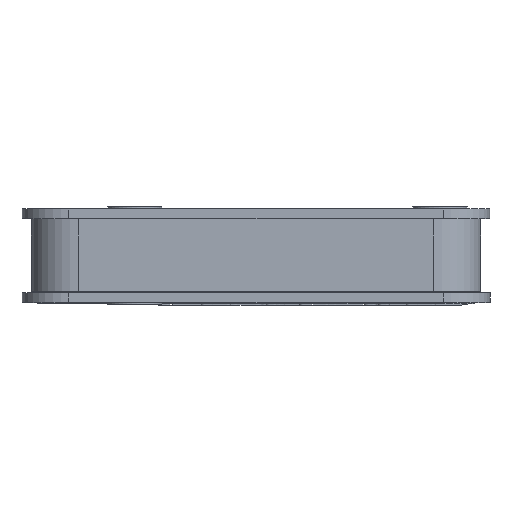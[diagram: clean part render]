
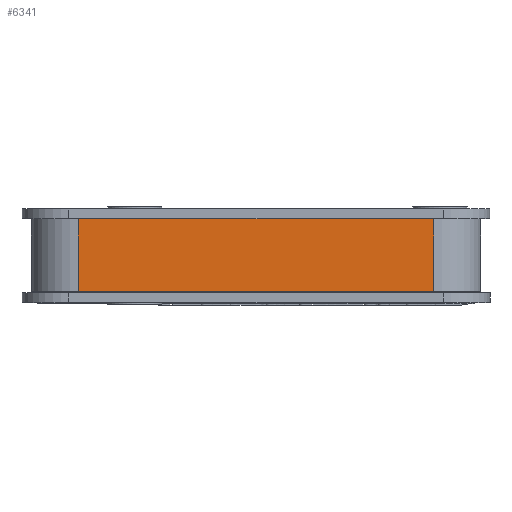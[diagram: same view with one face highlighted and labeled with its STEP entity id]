
A CAD part, front view. The second image highlights one B-rep face of the part: STEP entity #6341.
In plain terms, the highlighted planar face has unit normal (0, -1, 0).
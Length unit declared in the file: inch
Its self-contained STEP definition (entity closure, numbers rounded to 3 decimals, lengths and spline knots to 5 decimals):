
#1135 = DIRECTION ( 'NONE',  ( 1., 0., 0. ) ) ;
#1670 = AXIS2_PLACEMENT_3D ( 'NONE', #9506, #3784, #28617 ) ;
#2216 = CARTESIAN_POINT ( 'NONE',  ( 1.08769, -1.46269, 0.295 ) ) ;
#2268 = VECTOR ( 'NONE', #24551, 39.37008 ) ;
#2586 = CARTESIAN_POINT ( 'NONE',  ( 1.08769, -1.46269, -0.285 ) ) ;
#3036 = VECTOR ( 'NONE', #29281, 39.37008 ) ;
#3784 = DIRECTION ( 'NONE',  ( 0., 1., 0. ) ) ;
#4101 = FACE_OUTER_BOUND ( 'NONE', #6985, .T. ) ;
#4742 = DIRECTION ( 'NONE',  ( 1., 0., 0. ) ) ;
#5842 = EDGE_CURVE ( 'NONE', #17371, #24980, #14553, .T. ) ;
#6341 = ADVANCED_FACE ( 'NONE', ( #4101 ), #6907, .F. ) ;
#6907 = PLANE ( 'NONE',  #1670 ) ;
#6985 = EDGE_LOOP ( 'NONE', ( #23192, #17863, #19852, #32297 ) ) ;
#7151 = EDGE_CURVE ( 'NONE', #28891, #25014, #30954, .T. ) ;
#7677 = CARTESIAN_POINT ( 'NONE',  ( 1.08769, -1.46269, 0.295 ) ) ;
#8759 = VECTOR ( 'NONE', #4742, 39.37008 ) ;
#9506 = CARTESIAN_POINT ( 'NONE',  ( -1.76231, -1.46269, 0.295 ) ) ;
#9524 = EDGE_CURVE ( 'NONE', #24980, #25014, #26986, .T. ) ;
#14074 = CARTESIAN_POINT ( 'NONE',  ( -1.76231, -1.46269, -0.285 ) ) ;
#14553 = LINE ( 'NONE', #25812, #27781 ) ;
#17371 = VERTEX_POINT ( 'NONE', #23647 ) ;
#17863 = ORIENTED_EDGE ( 'NONE', *, *, #9524, .F. ) ;
#19424 = LINE ( 'NONE', #27383, #2268 ) ;
#19852 = ORIENTED_EDGE ( 'NONE', *, *, #5842, .F. ) ;
#23192 = ORIENTED_EDGE ( 'NONE', *, *, #7151, .T. ) ;
#23647 = CARTESIAN_POINT ( 'NONE',  ( -1.76231, -1.46269, 0.295 ) ) ;
#24551 = DIRECTION ( 'NONE',  ( 0., 0., -1. ) ) ;
#24980 = VERTEX_POINT ( 'NONE', #2216 ) ;
#25014 = VERTEX_POINT ( 'NONE', #2586 ) ;
#25812 = CARTESIAN_POINT ( 'NONE',  ( -1.76231, -1.46269, 0.295 ) ) ;
#26986 = LINE ( 'NONE', #7677, #3036 ) ;
#27079 = EDGE_CURVE ( 'NONE', #17371, #28891, #19424, .T. ) ;
#27383 = CARTESIAN_POINT ( 'NONE',  ( -1.76231, -1.46269, 0.295 ) ) ;
#27781 = VECTOR ( 'NONE', #1135, 39.37008 ) ;
#28607 = CARTESIAN_POINT ( 'NONE',  ( -1.76231, -1.46269, -0.285 ) ) ;
#28617 = DIRECTION ( 'NONE',  ( -1., 0., 0. ) ) ;
#28891 = VERTEX_POINT ( 'NONE', #14074 ) ;
#29281 = DIRECTION ( 'NONE',  ( 0., 0., -1. ) ) ;
#30954 = LINE ( 'NONE', #28607, #8759 ) ;
#32297 = ORIENTED_EDGE ( 'NONE', *, *, #27079, .T. ) ;
